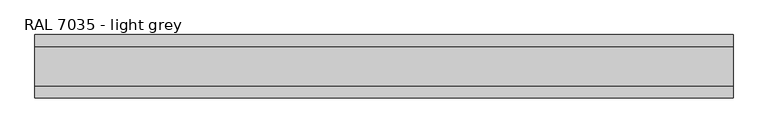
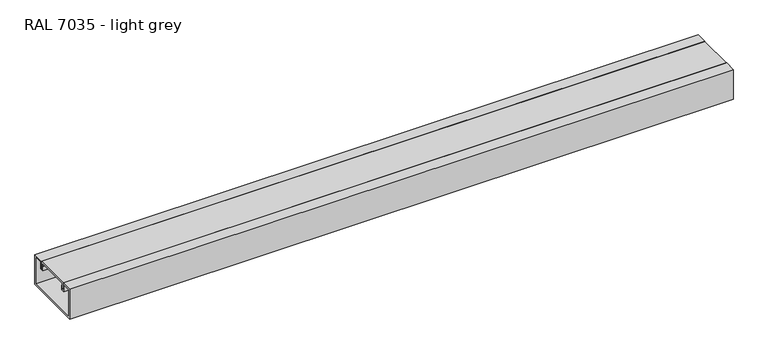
"""IFC4 building model written with IfcOpenShell, lengths in millimetres: proxy geometry, Electrical_Installations_Hager_BRP-Lid-End-Cap-One-Compartment : RAL 7035 - light grey."""

from ifc_helpers import new_model, si_unit, frame, origin, place, context, project, spatial, polyline, outline, extrude, source, transform, mapped, element, save


def ral_7035_light_grey_e50a98d5(model_context):
    return source(origin(), model_context, "Body", "SweptSolid", [
        extrude(outline(polyline([(40.0, 18.6492509), (37.5361498, 18.6492509), (37.5361498, 30.0), (-37.5361498, 30.0), (-37.5361498, 18.6492509), (-40.0, 18.6492509), (-40.0, 33.0), (40.0, 33.0), (40.0, 18.6492509)])), frame((0.0, 0.0, 0.0), z_axis=(1.0, 0.0, 0.0), x_axis=(0.0, 1.0, 0.0)), (0.0, 0.0, 1.0), 1429.3625),
        extrude(outline(polyline([(65.0, 33.0), (65.0, -35.0582587), (-65.0, -35.0582587), (-65.0, 33.0), (-40.5, 33.0), (-40.5, 16.0), (-36.578125, 16.0), (-36.578125, 24.0415809), (-35.3, 24.0415809), (-35.3, 14.0), (-42.5, 14.0), (-42.5, 30.0), (-62.0, 30.0), (-62.0, -32.0582587), (62.0, -32.0582587), (62.0, 30.0), (42.5, 30.0), (42.5, 14.0), (35.221875, 14.0), (35.221875, 24.0415809), (36.5, 24.0415809), (36.5, 16.0), (40.5, 16.0), (40.5, 33.0), (65.0, 33.0)])), frame((0.0, 0.0, 0.0), z_axis=(1.0, 0.0, 0.0), x_axis=(0.0, 1.0, 0.0)), (0.0, 0.0, 1.0), 1429.3625),
    ])


if __name__ == "__main__":
    model = new_model("IFC4")
    model_context = context("Model", 3, world=origin())
    ifc_project = project(units=[si_unit("LENGTHUNIT", "METRE", prefix="MILLI")], contexts=[model_context])
    site = spatial("IfcSite", under=ifc_project)
    building = spatial("IfcBuilding", under=site)
    placement = place(None, origin())
    ral_7035_light_grey_shape = ral_7035_light_grey_e50a98d5(model_context)
    element("IfcBuildingElementProxy", 1, Name="Electrical_Installations_Hager_BRP-Lid-End-Cap-One-Compartment : RAL 7035 - light grey", ObjectType="Electrical_Installations_Hager_BRP-Lid-End-Cap-One-Compartment : RAL 7035 - light grey", at=placement, inside=building, context=model_context, shape_type="MappedRepresentation", body=[
        mapped(ral_7035_light_grey_shape, transform((0.0, 0.0, 0.0), x_axis=(1.0, 0.0, 0.0), y_axis=(0.0, 1.0, 0.0), z_axis=(0.0, 0.0, 1.0))),
    ])
    save(model, "model.ifc")
